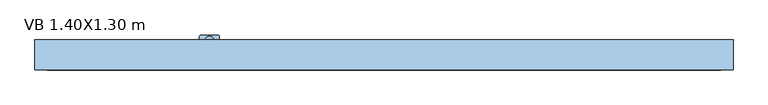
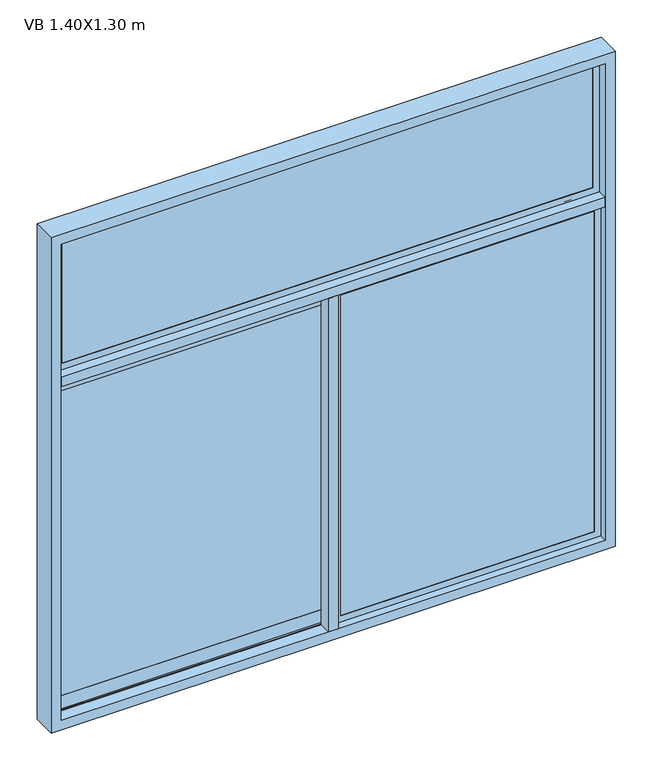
"""IFC4 building model written with IfcOpenShell, lengths in millimetres: window geometry, Ventana baja corrediza 2 cuerpos : VB 1.40X1.30 m."""

from ifc_helpers import new_model, si_unit, point, frame, frame_2d, origin, place, context, project, spatial, polyline, circle_curve, trimmed, segment, composite_curve, outline, extrude, faceted_brep, source, transform, mapped, element, save


def vb_1_40x1_30_m_7c4907bb(model_context):
    return source(origin(), model_context, "Body", "SolidModel", [
        extrude(outline(composite_curve([segment(trimmed(circle_curve(frame_2d((-350.0, 28.2738075)), 9.1519646), [point((-340.8480354, 28.2738075))], [point((-359.1519646, 28.2738075))], False, "CARTESIAN"), True, "CONTINUOUS"), segment(trimmed(circle_curve(frame_2d((-350.0, 28.2738075)), 9.1519646), [point((-359.1519646, 28.2738075))], [point((-340.8480354, 28.2738075))], False, "CARTESIAN"), True, "CONTINUOUS")], self_intersect=False)), frame((0.0, 0.0, 966.1518437), z_axis=(0.0, 0.0, 1.0), x_axis=(1.0, 0.0, 0.0)), (0.0, 0.0, 1.0), 3.4852564),
        extrude(outline(composite_curve([segment(trimmed(circle_curve(frame_2d((-350.0, 28.2738075)), 4.1308937), [point((-345.8691063, 28.2738075))], [point((-354.1308937, 28.2738075))], False, "CARTESIAN"), True, "CONTINUOUS"), segment(trimmed(circle_curve(frame_2d((-350.0, 28.2738075)), 4.1308937), [point((-354.1308937, 28.2738075))], [point((-345.8691063, 28.2738075))], False, "CARTESIAN"), True, "CONTINUOUS")], self_intersect=False)), frame((0.0, 0.0, 953.913316), z_axis=(0.0, 0.0, 1.0), x_axis=(1.0, 0.0, 0.0)), (0.0, 0.0, 1.0), 12.2385277),
        extrude(outline(composite_curve([segment(trimmed(circle_curve(frame_2d((-350.0, 28.2738075)), 7.026694), [point((-342.973306, 28.2738075))], [point((-357.026694, 28.2738075))], False, "CARTESIAN"), True, "CONTINUOUS"), segment(trimmed(circle_curve(frame_2d((-350.0, 28.2738075)), 7.026694), [point((-357.026694, 28.2738075))], [point((-342.973306, 28.2738075))], False, "CARTESIAN"), True, "CONTINUOUS")], self_intersect=False)), frame((0.0, 0.0, 932.1776083), z_axis=(0.0, 0.0, 1.0), x_axis=(1.0, 0.0, 0.0)), (0.0, 0.0, 1.0), 21.7357077),
        extrude(outline(composite_curve([segment(trimmed(circle_curve(frame_2d((945.1933283, -331.98428)), 1.98428), [point((945.1933283, -330.0))], [point((947.1776083, -331.98428))], False, "CARTESIAN"), True, "CONTINUOUS"), segment(polyline([(947.1776083, -331.98428), (947.1776083, -368.01572)]), True, "CONTINUOUS"), segment(trimmed(circle_curve(frame_2d((945.1933283, -368.01572)), 1.98428), [point((947.1776083, -368.01572))], [point((945.1933283, -370.0))], False, "CARTESIAN"), True, "CONTINUOUS"), segment(polyline([(945.1933283, -370.0), (932.1776083, -370.0), (932.1776083, -330.0), (945.1933283, -330.0)]), True, "CONTINUOUS")], self_intersect=False), holes=[composite_curve([segment(trimmed(circle_curve(frame_2d((940.5771467, -336.6646221)), 1.6750611), [point((940.5771467, -334.9895609))], [point((940.5771467, -338.3396832))], True, "CARTESIAN"), True, "CONTINUOUS"), segment(trimmed(circle_curve(frame_2d((940.5771467, -336.6646221)), 1.6750611), [point((940.5771467, -338.3396832))], [point((940.5771467, -334.9895609))], True, "CARTESIAN"), True, "CONTINUOUS")], self_intersect=False), composite_curve([segment(trimmed(circle_curve(frame_2d((940.5771467, -363.3353779)), 1.6750611), [point((940.5771467, -365.0104391))], [point((940.5771467, -361.6603168))], True, "CARTESIAN"), True, "CONTINUOUS"), segment(trimmed(circle_curve(frame_2d((940.5771467, -363.3353779)), 1.6750611), [point((940.5771467, -361.6603168))], [point((940.5771467, -365.0104391))], True, "CARTESIAN"), True, "CONTINUOUS")], self_intersect=False)]), frame((0.0, 15.1098039, 0.0), z_axis=(0.0, 1.0, 0.0), x_axis=(0.0, 0.0, 1.0)), (0.0, 0.0, 1.0), 4.012039),
        extrude(outline(composite_curve([segment(polyline([(-370.0, 15.1098039), (-370.0, 36.2721359)]), True, "CONTINUOUS"), segment(trimmed(circle_curve(frame_2d((-366.1623319, 36.2721359)), 3.8376681), [point((-370.0, 36.2721359))], [point((-366.1623319, 40.1098039))], False, "CARTESIAN"), True, "CONTINUOUS"), segment(polyline([(-366.1623319, 40.1098039), (-333.8376681, 40.1098039)]), True, "CONTINUOUS"), segment(trimmed(circle_curve(frame_2d((-333.8376681, 36.2721359)), 3.8376681), [point((-333.8376681, 40.1098039))], [point((-330.0, 36.2721359))], False, "CARTESIAN"), True, "CONTINUOUS"), segment(polyline([(-330.0, 36.2721359), (-330.0, 15.1098039), (-370.0, 15.1098039)]), True, "CONTINUOUS")], self_intersect=False)), frame((0.0, 0.0, 928.6104688), z_axis=(0.0, 0.0, 1.0), x_axis=(1.0, 0.0, 0.0)), (0.0, 0.0, 1.0), 3.5671395),
        extrude(outline(polyline([(-675.0, 13.9001865), (12.5, 13.9001865), (12.5, 4.4001865), (-675.0, 4.4001865), (-675.0, 13.9001865)])), frame((0.0, 0.0, 948.9759668), z_axis=(0.0, 0.0, 1.0), x_axis=(1.0, 0.0, 0.0)), (0.0, 0.0, 1.0), 827.0480665),
        extrude(outline(polyline([(671.40625, -1.2096174), (671.40625, -10.7096174), (16.09375, -10.7096174), (16.09375, -1.2096174), (671.40625, -1.2096174)])), frame((0.0, 0.0, 928.59375), z_axis=(0.0, 0.0, 1.0), x_axis=(1.0, 0.0, 0.0)), (0.0, 0.0, 1.0), 867.8125),
        extrude(outline(polyline([(671.40625, 4.75), (671.40625, -4.75), (-671.40625, -4.75), (-671.40625, 4.75), (671.40625, 4.75)])), frame((0.0, 0.0, 1828.59375), z_axis=(0.0, 0.0, 1.0), x_axis=(1.0, 0.0, 0.0)), (0.0, 0.0, 1.0), 342.8125),
        extrude(outline(composite_curve([segment(polyline([(10.2821926, 1800.0), (10.2821926, 1789.1628008)]), True, "CONTINUOUS"), segment(trimmed(circle_curve(frame_2d((9.1502142, 1789.8593269)), 1.3291064), [point((10.2821926, 1789.1628008))], [point((8.0182357, 1789.1628008))], False, "CARTESIAN"), True, "CONTINUOUS"), segment(polyline([(8.0182357, 1789.1628008), (8.0182357, 1797.9830324), (0.0, 1797.9830324), (0.0, 1800.0), (10.2821926, 1800.0)]), True, "CONTINUOUS")], self_intersect=False)), frame((-675.0, 0.0, 0.0), z_axis=(1.0, 0.0, 0.0), x_axis=(0.0, 1.0, 0.0)), (0.0, 0.0, 1.0), 1333.2282521),
        extrude(outline(polyline([(12.0251865, 1779.6177832), (12.0251865, 1796.3895312), (15.1098039, 1796.3895312), (15.1098039, 1762.8460353), (13.9001865, 1762.8460353), (13.9001865, 1776.0240332), (4.4001865, 1776.0240332), (4.4001865, 1762.8460353), (3.190569, 1762.8460353), (3.190569, 1796.3895312), (6.2751865, 1796.3895312), (6.2751865, 1779.6177832), (12.0251865, 1779.6177832)])), frame((-675.0, 0.0, 0.0), z_axis=(1.0, 0.0, 0.0), x_axis=(0.0, 1.0, 0.0)), (0.0, 0.0, 1.0), 687.5),
        extrude(outline(polyline([(6.9867702, 1780.2900719), (6.9867702, 1789.8233667), (9.1501865, 1787.6599504), (11.3136028, 1789.8233667), (11.3136028, 1780.2900719), (9.1501865, 1782.4534882), (6.9867702, 1780.2900719)])), frame((-675.0, 0.0, 0.0), z_axis=(1.0, 0.0, 0.0), x_axis=(0.0, 1.0, 0.0)), (0.0, 0.0, 1.0), 687.5),
        faceted_brep([(29.2717479, -1.2096174, 1783.2282521), (29.2717479, -1.2096174, 941.7717479), (29.2717479, 0.0, 941.7717479), (29.2717479, 0.0, 1783.2282521), (16.09375, -10.7096174, 1796.40625), (16.09375, -10.7096174, 928.59375), (16.09375, -1.2096174, 928.59375), (16.09375, -1.2096174, 1796.40625), (29.2717479, -11.9192349, 1783.2282521), (29.2717479, -11.9192349, 941.7717479), (29.2717479, -10.7096174, 941.7717479), (29.2717479, -10.7096174, 1783.2282521), (12.5, 0.0, 1800.0), (12.5, 0.0, 925.0), (12.5, -11.9192349, 925.0), (12.5, -11.9192349, 1800.0), (658.2282521, -1.2096174, 941.7717479), (658.2282521, 0.0, 941.7717479), (671.40625, -10.7096174, 928.59375), (671.40625, -1.2096174, 928.59375), (658.2282521, -11.9192349, 941.7717479), (658.2282521, -10.7096174, 941.7717479), (675.0, 0.0, 925.0), (675.0, -11.9192349, 925.0), (658.2282521, -1.2096174, 1783.2282521), (658.2282521, 0.0, 1783.2282521), (671.40625, -10.7096174, 1796.40625), (671.40625, -1.2096174, 1796.40625), (658.2282521, -11.9192349, 1783.2282521), (658.2282521, -10.7096174, 1783.2282521), (675.0, 0.0, 1800.0), (675.0, -11.9192349, 1800.0)], [[[0, 1, 2, 3]], [[4, 5, 6, 7]], [[8, 9, 10, 11]], [[12, 13, 14, 15]], [[1, 16, 17, 2]], [[5, 18, 19, 6]], [[9, 20, 21, 10]], [[13, 22, 23, 14]], [[16, 24, 25, 17]], [[18, 26, 27, 19]], [[20, 28, 29, 21]], [[22, 30, 31, 23]], [[13, 12, 30, 22], [3, 2, 17, 25]], [[24, 0, 3, 25]], [[7, 6, 19, 27], [1, 0, 24, 16]], [[26, 4, 7, 27]], [[5, 4, 26, 18], [11, 10, 21, 29]], [[28, 8, 11, 29]], [[15, 14, 23, 31], [9, 8, 28, 20]], [[30, 12, 15, 31]]]),
        faceted_brep([(-675.0, 5.9596174, 2175.0), (-675.0, 5.9596174, 1825.0), (-675.0, -5.9596174, 1825.0), (-675.0, -5.9596174, 2175.0), (-658.2282521, 4.75, 2158.2282521), (-658.2282521, 4.75, 1841.7717479), (-658.2282521, 5.9596174, 1841.7717479), (-658.2282521, 5.9596174, 2158.2282521), (-671.40625, -4.75, 2171.40625), (-671.40625, -4.75, 1828.59375), (-671.40625, 4.75, 1828.59375), (-671.40625, 4.75, 2171.40625), (-658.2282521, -5.9596174, 2158.2282521), (-658.2282521, -5.9596174, 1841.7717479), (-658.2282521, -4.75, 1841.7717479), (-658.2282521, -4.75, 2158.2282521), (675.0, 5.9596174, 1825.0), (675.0, -5.9596174, 1825.0), (658.2282521, 4.75, 1841.7717479), (658.2282521, 5.9596174, 1841.7717479), (671.40625, -4.75, 1828.59375), (671.40625, 4.75, 1828.59375), (658.2282521, -5.9596174, 1841.7717479), (658.2282521, -4.75, 1841.7717479), (675.0, 5.9596174, 2175.0), (675.0, -5.9596174, 2175.0), (658.2282521, 4.75, 2158.2282521), (658.2282521, 5.9596174, 2158.2282521), (671.40625, -4.75, 2171.40625), (671.40625, 4.75, 2171.40625), (658.2282521, -5.9596174, 2158.2282521), (658.2282521, -4.75, 2158.2282521)], [[[0, 1, 2, 3]], [[4, 5, 6, 7]], [[8, 9, 10, 11]], [[12, 13, 14, 15]], [[1, 16, 17, 2]], [[5, 18, 19, 6]], [[9, 20, 21, 10]], [[13, 22, 23, 14]], [[16, 24, 25, 17]], [[18, 26, 27, 19]], [[20, 28, 29, 21]], [[22, 30, 31, 23]], [[24, 0, 3, 25]], [[1, 0, 24, 16], [7, 6, 19, 27]], [[26, 4, 7, 27]], [[11, 10, 21, 29], [5, 4, 26, 18]], [[28, 8, 11, 29]], [[9, 8, 28, 20], [15, 14, 23, 31]], [[30, 12, 15, 31]], [[3, 2, 17, 25], [13, 12, 30, 22]]]),
        extrude(outline(polyline([(12.5, 0.0), (12.5, -30.15), (-12.5, -30.15), (-12.5, 0.0), (12.5, 0.0)])), frame((0.0, 0.0, 925.0), z_axis=(0.0, 0.0, 1.0), x_axis=(1.0, 0.0, 0.0)), (0.0, 0.0, 1.0), 875.0),
        extrude(outline(polyline([(675.0, -30.15), (-675.0, -30.15), (-675.0, 30.15), (675.0, 30.15), (675.0, -30.15)])), frame((0.0, 0.0, 1800.0), z_axis=(0.0, 0.0, 1.0), x_axis=(1.0, 0.0, 0.0)), (0.0, 0.0, 1.0), 25.0),
        extrude(outline(polyline([(2200.0, -700.0), (900.0, -700.0), (900.0, 700.0), (2200.0, 700.0), (2200.0, -700.0)]), holes=[polyline([(925.0, -675.0), (2175.0, -675.0), (2175.0, 675.0), (925.0, 675.0), (925.0, -675.0)])]), frame((0.0, -30.15, 0.0), z_axis=(0.0, 1.0, 0.0), x_axis=(0.0, 0.0, 1.0)), (0.0, 0.0, 1.0), 60.3),
        extrude(outline(polyline([(3.190569, 962.1539647), (4.4001865, 962.1539647), (4.4001865, 948.9759668), (13.9001865, 948.9759668), (13.9001865, 962.1539647), (15.1098039, 962.1539647), (15.1098039, 928.6104688), (12.0251865, 928.6104688), (12.0251865, 945.3822168), (6.2751865, 945.3822168), (6.2751865, 928.6104688), (3.190569, 928.6104688), (3.190569, 962.1539647)])), frame((-675.0, 0.0, 0.0), z_axis=(1.0, 0.0, 0.0), x_axis=(0.0, 1.0, 0.0)), (0.0, 0.0, 1.0), 687.5),
        extrude(outline(polyline([(9.1501865, 942.5465118), (11.3136028, 944.7099281), (11.3136028, 935.1766333), (9.1501865, 937.3400496), (6.9867702, 935.1766333), (6.9867702, 944.7099281), (9.1501865, 942.5465118)])), frame((-675.0, 0.0, 0.0), z_axis=(1.0, 0.0, 0.0), x_axis=(0.0, 1.0, 0.0)), (0.0, 0.0, 1.0), 687.5),
        extrude(outline(composite_curve([segment(polyline([(10.2821926, 925.0), (0.0, 925.0), (0.0, 927.0169676), (8.0182357, 927.0169676), (8.0182357, 935.8371992)]), True, "CONTINUOUS"), segment(trimmed(circle_curve(frame_2d((9.1502142, 935.1406731)), 1.3291064), [point((8.0182357, 935.8371992))], [point((10.2821926, 935.8371992))], False, "CARTESIAN"), True, "CONTINUOUS"), segment(polyline([(10.2821926, 935.8371992), (10.2821926, 925.0)]), True, "CONTINUOUS")], self_intersect=False)), frame((-675.0, 0.0, 0.0), z_axis=(1.0, 0.0, 0.0), x_axis=(0.0, 1.0, 0.0)), (0.0, 0.0, 1.0), 1333.2282521),
    ])


if __name__ == "__main__":
    model = new_model("IFC4")
    model_context = context("Model", 3, world=origin())
    ifc_project = project(units=[si_unit("LENGTHUNIT", "METRE", prefix="MILLI")], contexts=[model_context])
    site = spatial("IfcSite", under=ifc_project)
    building = spatial("IfcBuilding", under=site)
    placement = place(None, origin())
    vb_1_40x1_30_m_shape = vb_1_40x1_30_m_7c4907bb(model_context)
    element("IfcWindow", 1, ObjectType="Ventana baja corrediza 2 cuerpos : VB 1.40X1.30 m", at=placement, inside=building, context=model_context, shape_type="MappedRepresentation", body=[
        mapped(vb_1_40x1_30_m_shape, transform((0.0, 0.0, 0.0), x_axis=(1.0, 0.0, 0.0), y_axis=(0.0, 1.0, 0.0), z_axis=(0.0, 0.0, 1.0))),
    ])
    save(model, "model.ifc")
